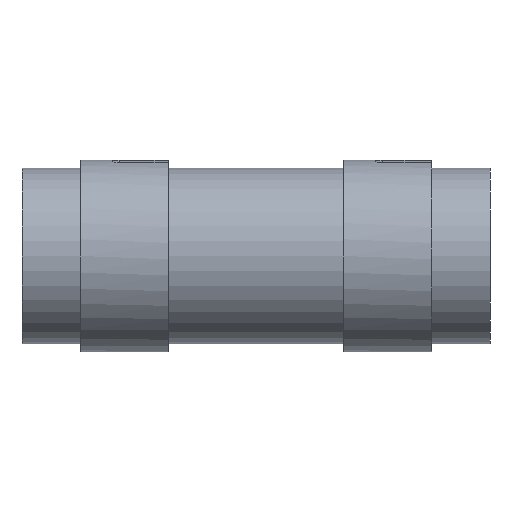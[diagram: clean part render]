
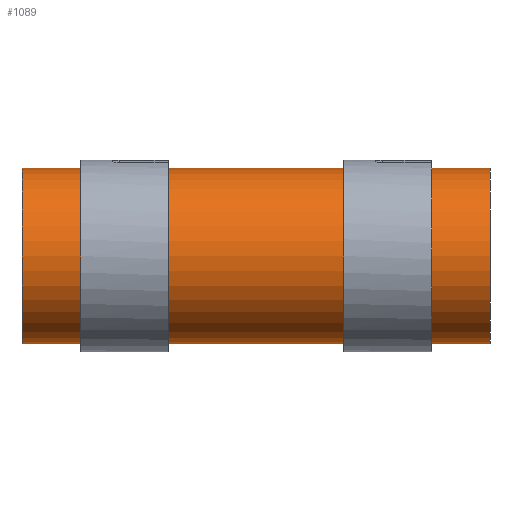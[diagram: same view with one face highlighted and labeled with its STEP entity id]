
A CAD part, front view. The second image highlights one B-rep face of the part: STEP entity #1089.
In plain terms, the highlighted cylindrical face has radius 9.525 mm (diameter 19.05 mm), a partial arc.
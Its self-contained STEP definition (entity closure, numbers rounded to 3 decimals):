
#154 = AXIS2_PLACEMENT_3D ( 'NONE', #1645, #1183, #1347 ) ;
#315 = AXIS2_PLACEMENT_3D ( 'NONE', #1253, #1436, #1115 ) ;
#317 = AXIS2_PLACEMENT_3D ( 'NONE', #1610, #1477, #1540 ) ;
#333 = EDGE_CURVE ( 'NONE', #444, #762, #803, .T. ) ;
#335 = EDGE_CURVE ( 'NONE', #450, #755, #495, .T. ) ;
#337 = EDGE_CURVE ( 'NONE', #450, #444, #1014, .T. ) ;
#339 = EDGE_CURVE ( 'NONE', #755, #762, #850, .T. ) ;
#370 = VECTOR ( 'NONE', #1690, 1000. ) ;
#444 = VERTEX_POINT ( 'NONE', #1161 ) ;
#450 = VERTEX_POINT ( 'NONE', #1412 ) ;
#495 = LINE ( 'NONE', #1345, #1018 ) ;
#575 = FACE_OUTER_BOUND ( 'NONE', #927, .T. ) ;
#755 = VERTEX_POINT ( 'NONE', #1620 ) ;
#762 = VERTEX_POINT ( 'NONE', #1150 ) ;
#787 = CYLINDRICAL_SURFACE ( 'NONE', #154, 9.525 ) ;
#803 = LINE ( 'NONE', #1480, #370 ) ;
#850 = CIRCLE ( 'NONE', #317, 9.525 ) ;
#892 = ORIENTED_EDGE ( 'NONE', *, *, #333, .F. ) ;
#894 = ORIENTED_EDGE ( 'NONE', *, *, #337, .F. ) ;
#895 = ORIENTED_EDGE ( 'NONE', *, *, #335, .T. ) ;
#896 = ORIENTED_EDGE ( 'NONE', *, *, #339, .T. ) ;
#927 = EDGE_LOOP ( 'NONE', ( #892, #894, #895, #896 ) ) ;
#1014 = CIRCLE ( 'NONE', #315, 9.525 ) ;
#1018 = VECTOR ( 'NONE', #1527, 1000. ) ;
#1089 = ADVANCED_FACE ( 'NONE', ( #575 ), #787, .T. ) ;
#1115 = DIRECTION ( 'NONE',  ( 0., 0., -1. ) ) ;
#1150 = CARTESIAN_POINT ( 'NONE',  ( -25.4, 0., -9.525 ) ) ;
#1161 = CARTESIAN_POINT ( 'NONE',  ( 25.4, 0., -9.525 ) ) ;
#1183 = DIRECTION ( 'NONE',  ( -1., 0., 0. ) ) ;
#1253 = CARTESIAN_POINT ( 'NONE',  ( 25.4, 0., 0. ) ) ;
#1345 = CARTESIAN_POINT ( 'NONE',  ( 25.4, 0., 9.525 ) ) ;
#1347 = DIRECTION ( 'NONE',  ( 0., 0., 1. ) ) ;
#1412 = CARTESIAN_POINT ( 'NONE',  ( 25.4, 0., 9.525 ) ) ;
#1436 = DIRECTION ( 'NONE',  ( 1., 0., 0. ) ) ;
#1477 = DIRECTION ( 'NONE',  ( 1., 0., 0. ) ) ;
#1480 = CARTESIAN_POINT ( 'NONE',  ( 25.4, 0., -9.525 ) ) ;
#1527 = DIRECTION ( 'NONE',  ( -1., 0., 0. ) ) ;
#1540 = DIRECTION ( 'NONE',  ( 0., 0., -1. ) ) ;
#1610 = CARTESIAN_POINT ( 'NONE',  ( -25.4, 0., 0. ) ) ;
#1620 = CARTESIAN_POINT ( 'NONE',  ( -25.4, 0., 9.525 ) ) ;
#1645 = CARTESIAN_POINT ( 'NONE',  ( 25.4, 0., 0. ) ) ;
#1690 = DIRECTION ( 'NONE',  ( -1., 0., 0. ) ) ;
